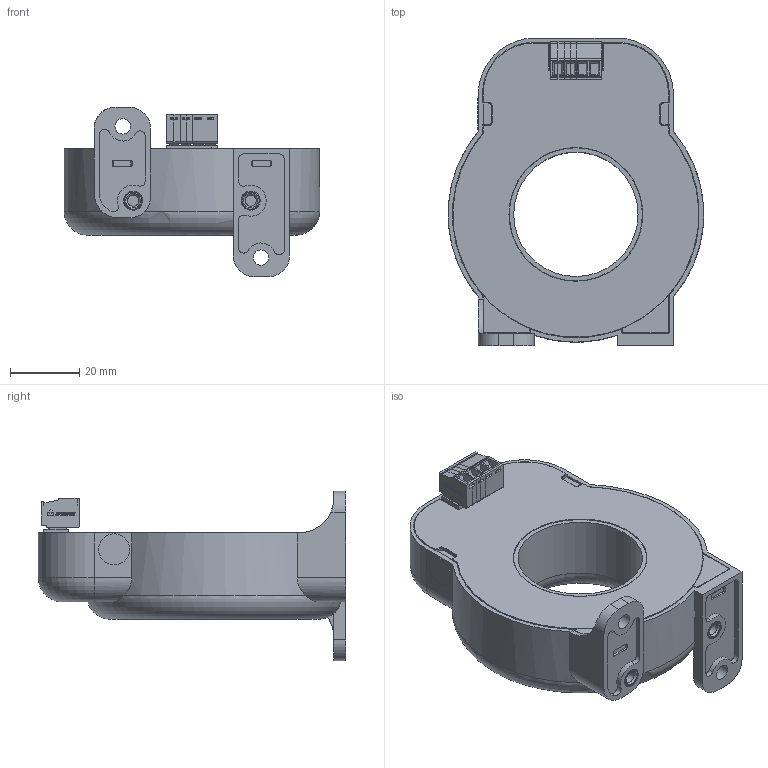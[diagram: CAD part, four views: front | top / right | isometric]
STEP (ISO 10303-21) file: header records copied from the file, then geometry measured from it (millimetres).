
FILE_DESCRIPTION(/* description */ (''),/* implementation_level */ '2;1');
FILE_NAME(/* name */ 'D:\WorkIMT\Project IMT\СКИ\СКИ для сайта\МТ.ПУЛЬС-ТТ-35.01 для сайта.stp',/* time_stamp */ '2026-10-10T09:35:11+03:00',/* author */ ('admin'),/* organization */ (''),/* preprocessor_version */ 'ST-DEVELOPER v17.2',/* originating_system */ 'Autodesk Inventor 2019',/* authorisation */ '');
FILE_SCHEMA (('AUTOMOTIVE_DESIGN { 1 0 10303 214 3 1 1 }'));
Products named in the file (1): МТ.ПУЛЬС-ТТ-
35.01
Bounding box: 73.92 x 89 x 49 mm (x, y, z)
Volume: 46392.3 mm3; surface area: 35324.9 mm2
Topology: 3 solids, 6 shells, 1687 faces, 4868 edges, 3222 vertices
Faces by surface type: plane 1455, cylinder 181, torus 34, cone 17
Full cylindrical faces by diameter (mm): 0.127 x1, 2 x2, 2.87 x1, 2.95 x4, 3.242 x2, 4.5 x2, 5 x2, 9 x2, 36 x1, 38.7 x1, 43 x1
Entity records: 57203 total; most frequent: CARTESIAN_POINT 10391, ORIENTED_EDGE 9738, DIRECTION 8924, EDGE_CURVE 4869, LINE 4058, VECTOR 4058, VERTEX_POINT 3223, AXIS2_PLACEMENT_3D 2433
